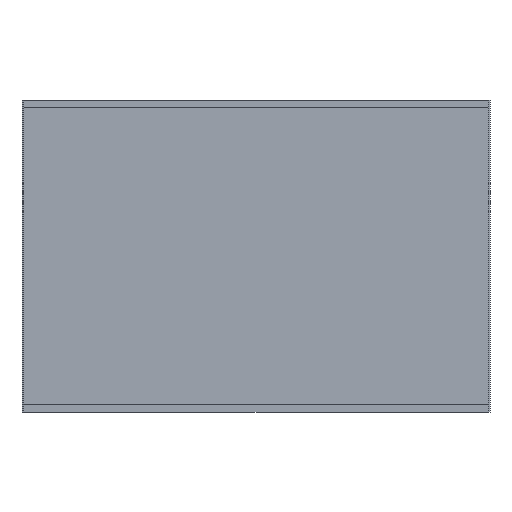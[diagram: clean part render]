
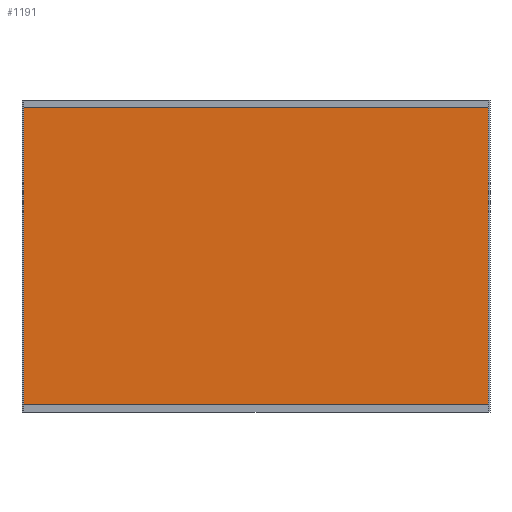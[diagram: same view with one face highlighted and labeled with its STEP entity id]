
A CAD part, front view. The second image highlights one B-rep face of the part: STEP entity #1191.
In plain terms, the highlighted planar face has unit normal (0, -1, 0).
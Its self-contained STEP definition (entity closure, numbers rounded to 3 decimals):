
#66=PLANE('',#1293);
#129=FACE_OUTER_BOUND('',#199,.T.);
#199=EDGE_LOOP('',(#1006,#1007,#1008,#1009));
#319=LINE('',#1857,#457);
#322=LINE('',#1863,#460);
#323=LINE('',#1865,#461);
#324=LINE('',#1866,#462);
#457=VECTOR('',#1539,10.);
#460=VECTOR('',#1544,10.);
#461=VECTOR('',#1545,10.);
#462=VECTOR('',#1546,10.);
#589=VERTEX_POINT('',#1854);
#590=VERTEX_POINT('',#1856);
#592=VERTEX_POINT('',#1862);
#593=VERTEX_POINT('',#1864);
#731=EDGE_CURVE('',#589,#590,#319,.T.);
#734=EDGE_CURVE('',#592,#589,#322,.T.);
#735=EDGE_CURVE('',#593,#592,#323,.T.);
#736=EDGE_CURVE('',#590,#593,#324,.T.);
#1006=ORIENTED_EDGE('',*,*,#734,.F.);
#1007=ORIENTED_EDGE('',*,*,#735,.F.);
#1008=ORIENTED_EDGE('',*,*,#736,.F.);
#1009=ORIENTED_EDGE('',*,*,#731,.F.);
#1191=ADVANCED_FACE('',(#129),#66,.T.);
#1293=AXIS2_PLACEMENT_3D('',#1861,#1542,#1543);
#1539=DIRECTION('',(0.,0.,1.));
#1542=DIRECTION('center_axis',(0.,-1.,0.));
#1543=DIRECTION('ref_axis',(0.,0.,-1.));
#1544=DIRECTION('',(-1.,0.,0.));
#1545=DIRECTION('',(0.,0.,-1.));
#1546=DIRECTION('',(1.,0.,0.));
#1854=CARTESIAN_POINT('',(-523.,-30.75,16.));
#1856=CARTESIAN_POINT('',(-523.,-30.75,683.));
#1857=CARTESIAN_POINT('',(-523.,-30.75,683.));
#1861=CARTESIAN_POINT('Origin',(0.,-30.75,683.));
#1862=CARTESIAN_POINT('',(523.,-30.75,16.));
#1863=CARTESIAN_POINT('',(0.,-30.75,16.));
#1864=CARTESIAN_POINT('',(523.,-30.75,683.));
#1865=CARTESIAN_POINT('',(523.,-30.75,683.));
#1866=CARTESIAN_POINT('',(0.,-30.75,683.));
